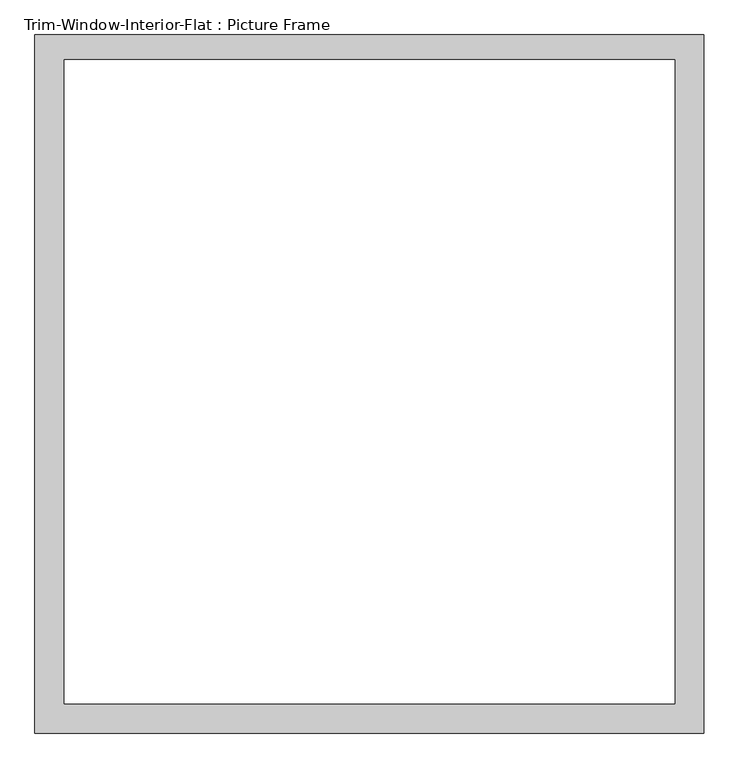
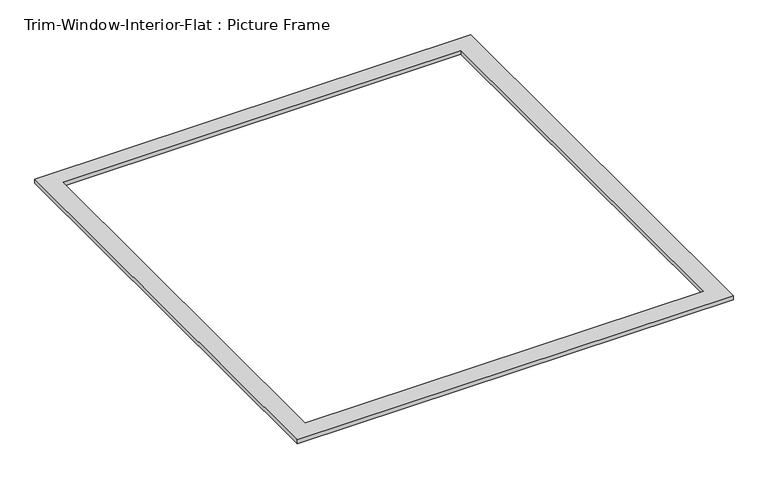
"""IFC4 building model written with IfcOpenShell, lengths in millimetres: proxy geometry, Trim-Window-Interior-Flat : Picture Frame."""

from ifc_helpers import new_model, si_unit, origin, origin_with_axes, place, context, project, spatial, polyline, outline, extrude, source, transform, mapped, element, save


def trim_window_interior_flat_picture_frame_5e1908d6(model_context):
    return source(origin(), model_context, "Body", "SweptSolid", [
        extrude(outline(polyline([(1016.0, 63.5), (1016.0, -2057.4), (-1016.0, -2057.4), (-1016.0, 63.5), (1016.0, 63.5)]), holes=[polyline([(927.1, -12.7), (-927.1, -12.7), (-927.1, -1968.5), (927.1, -1968.5), (927.1, -12.7)])]), origin_with_axes(), (0.0, 0.0, 1.0), 19.05),
    ])


if __name__ == "__main__":
    model = new_model("IFC4")
    model_context = context("Model", 3, world=origin())
    ifc_project = project(units=[si_unit("LENGTHUNIT", "METRE", prefix="MILLI")], contexts=[model_context])
    site = spatial("IfcSite", under=ifc_project)
    building = spatial("IfcBuilding", under=site)
    placement = place(None, origin())
    trim_window_interior_flat_picture_frame_shape = trim_window_interior_flat_picture_frame_5e1908d6(model_context)
    element("IfcBuildingElementProxy", 1, Name="Trim-Window-Interior-Flat : Picture Frame", ObjectType="Trim-Window-Interior-Flat : Picture Frame", at=placement, inside=building, context=model_context, shape_type="MappedRepresentation", body=[
        mapped(trim_window_interior_flat_picture_frame_shape, transform((0.0, 0.0, 0.0), x_axis=(1.0, 0.0, 0.0), y_axis=(0.0, 1.0, 0.0), z_axis=(0.0, 0.0, 1.0))),
    ])
    save(model, "model.ifc")
